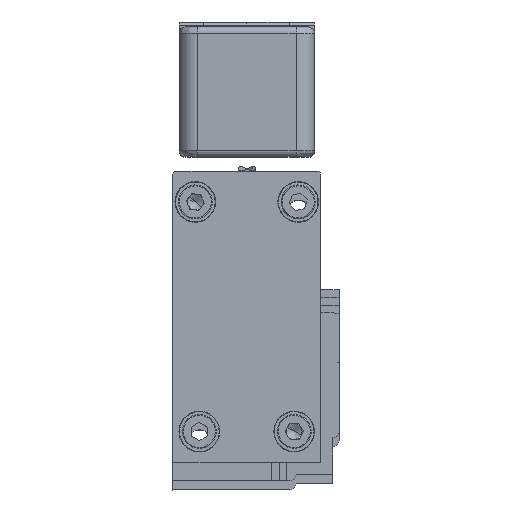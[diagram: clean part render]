
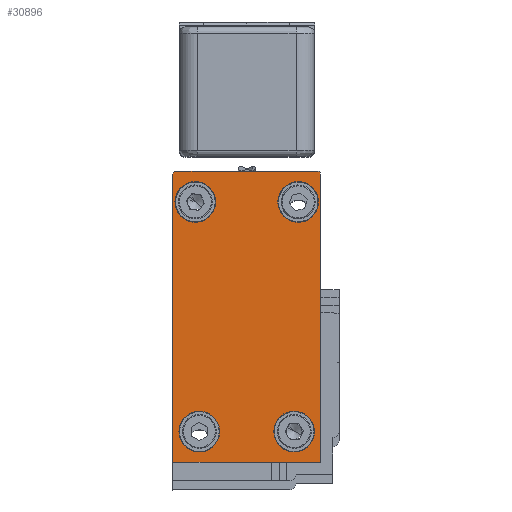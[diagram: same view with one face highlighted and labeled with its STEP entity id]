
A CAD part, top view. The second image highlights one B-rep face of the part: STEP entity #30896.
In plain terms, the highlighted planar face has unit normal (0, 0, 1).
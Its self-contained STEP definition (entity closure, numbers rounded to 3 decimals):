
#298 = DIRECTION ( 'NONE',  ( 0., 0., -1. ) ) ;
#324 = CARTESIAN_POINT ( 'NONE',  ( 5.984, -20.888, 3185. ) ) ;
#330 = VERTEX_POINT ( 'NONE', #29705 ) ;
#409 = EDGE_CURVE ( 'NONE', #3132, #6403, #15559, .T. ) ;
#860 = VERTEX_POINT ( 'NONE', #30351 ) ;
#1357 = VERTEX_POINT ( 'NONE', #10561 ) ;
#1759 = ORIENTED_EDGE ( 'NONE', *, *, #1825, .T. ) ;
#1825 = EDGE_CURVE ( 'NONE', #23391, #5737, #16225, .T. ) ;
#2211 = CARTESIAN_POINT ( 'NONE',  ( -17.514, 26.371, 3185. ) ) ;
#2594 = CARTESIAN_POINT ( 'NONE',  ( 5.984, 7.11, 3185. ) ) ;
#3019 = LINE ( 'NONE', #23287, #22585 ) ;
#3132 = VERTEX_POINT ( 'NONE', #17724 ) ;
#3183 = CARTESIAN_POINT ( 'NONE',  ( -13.714, -15.887, 3185. ) ) ;
#3636 = VECTOR ( 'NONE', #21829, 1000. ) ;
#3754 = LINE ( 'NONE', #324, #9480 ) ;
#4077 = ORIENTED_EDGE ( 'NONE', *, *, #24701, .T. ) ;
#4430 = DIRECTION ( 'NONE',  ( 0., 0., -1. ) ) ;
#4589 = AXIS2_PLACEMENT_3D ( 'NONE', #29338, #14610, #31803 ) ;
#5462 = DIRECTION ( 'NONE',  ( 0., -1., 0. ) ) ;
#5536 = CARTESIAN_POINT ( 'NONE',  ( -1.626, -15.887, 3185. ) ) ;
#5570 = EDGE_LOOP ( 'NONE', ( #24722, #5773 ) ) ;
#5618 = DIRECTION ( 'NONE',  ( -1., 0., 0. ) ) ;
#5737 = VERTEX_POINT ( 'NONE', #5536 ) ;
#5773 = ORIENTED_EDGE ( 'NONE', *, *, #28994, .T. ) ;
#5811 = ORIENTED_EDGE ( 'NONE', *, *, #15309, .F. ) ;
#5883 = CARTESIAN_POINT ( 'NONE',  ( 2.335, 21.401, 3185. ) ) ;
#6143 = DIRECTION ( 'NONE',  ( 1., 0., 0. ) ) ;
#6191 = DIRECTION ( 'NONE',  ( 0., 0., -1. ) ) ;
#6222 = CARTESIAN_POINT ( 'NONE',  ( -17.667, 21.401, 3185. ) ) ;
#6403 = VERTEX_POINT ( 'NONE', #17359 ) ;
#6424 = VECTOR ( 'NONE', #18844, 1000. ) ;
#6546 = DIRECTION ( 'NONE',  ( 0., 0., 1. ) ) ;
#6804 = VERTEX_POINT ( 'NONE', #16471 ) ;
#6960 = VERTEX_POINT ( 'NONE', #19810 ) ;
#7341 = ORIENTED_EDGE ( 'NONE', *, *, #409, .T. ) ;
#7673 = DIRECTION ( 'NONE',  ( 0., 0., 1. ) ) ;
#7792 = ORIENTED_EDGE ( 'NONE', *, *, #16546, .T. ) ;
#7875 = AXIS2_PLACEMENT_3D ( 'NONE', #21244, #6546, #23703 ) ;
#7934 = EDGE_CURVE ( 'NONE', #6960, #860, #10342, .T. ) ;
#8345 = DIRECTION ( 'NONE',  ( -1., 0., 0. ) ) ;
#8420 = AXIS2_PLACEMENT_3D ( 'NONE', #19075, #4430, #21577 ) ;
#8605 = ORIENTED_EDGE ( 'NONE', *, *, #7934, .T. ) ;
#8631 = CIRCLE ( 'NONE', #25433, 0.5 ) ;
#8657 = ORIENTED_EDGE ( 'NONE', *, *, #30466, .T. ) ;
#8765 = CIRCLE ( 'NONE', #24328, 3.302 ) ;
#8909 = PLANE ( 'NONE',  #7875 ) ;
#9139 = ORIENTED_EDGE ( 'NONE', *, *, #25547, .T. ) ;
#9254 = CARTESIAN_POINT ( 'NONE',  ( 1.676, -15.887, 3185. ) ) ;
#9480 = VECTOR ( 'NONE', #17431, 1000. ) ;
#9594 = CARTESIAN_POINT ( 'NONE',  ( -13.714, -15.887, 3185. ) ) ;
#10342 = LINE ( 'NONE', #20137, #23347 ) ;
#10561 = CARTESIAN_POINT ( 'NONE',  ( -10.412, -15.887, 3185. ) ) ;
#10728 = EDGE_CURVE ( 'NONE', #29186, #29997, #19470, .T. ) ;
#11012 = ORIENTED_EDGE ( 'NONE', *, *, #10728, .T. ) ;
#11698 = DIRECTION ( 'NONE',  ( -1., 0., 0. ) ) ;
#12053 = DIRECTION ( 'NONE',  ( -1., 0., 0. ) ) ;
#12172 = FACE_BOUND ( 'NONE', #12187, .T. ) ;
#12187 = EDGE_LOOP ( 'NONE', ( #7341, #16454 ) ) ;
#13590 = EDGE_LOOP ( 'NONE', ( #30246, #11012, #4077, #9139, #5811, #8605, #21467 ) ) ;
#13783 = CARTESIAN_POINT ( 'NONE',  ( 2.335, 21.401, 3185. ) ) ;
#14092 = EDGE_CURVE ( 'NONE', #16717, #21394, #21231, .T. ) ;
#14610 = DIRECTION ( 'NONE',  ( 0., 0., -1. ) ) ;
#14948 = CARTESIAN_POINT ( 'NONE',  ( 1.676, -15.887, 3185. ) ) ;
#15309 = EDGE_CURVE ( 'NONE', #6960, #25500, #19244, .T. ) ;
#15357 = CARTESIAN_POINT ( 'NONE',  ( -11.063, 21.401, 3185. ) ) ;
#15559 = CIRCLE ( 'NONE', #15599, 3.302 ) ;
#15599 = AXIS2_PLACEMENT_3D ( 'NONE', #5883, #23048, #8345 ) ;
#15964 = CARTESIAN_POINT ( 'NONE',  ( 5.984, 7.11, 3185. ) ) ;
#16225 = CIRCLE ( 'NONE', #31496, 3.302 ) ;
#16252 = DIRECTION ( 'NONE',  ( -1., 0., 0. ) ) ;
#16454 = ORIENTED_EDGE ( 'NONE', *, *, #20114, .T. ) ;
#16471 = CARTESIAN_POINT ( 'NONE',  ( 5.485, 26.371, 3185. ) ) ;
#16546 = EDGE_CURVE ( 'NONE', #1357, #31814, #24947, .T. ) ;
#16717 = VERTEX_POINT ( 'NONE', #6222 ) ;
#17359 = CARTESIAN_POINT ( 'NONE',  ( 5.637, 21.401, 3185. ) ) ;
#17402 = DIRECTION ( 'NONE',  ( -1., 0., 0. ) ) ;
#17431 = DIRECTION ( 'NONE',  ( 0., 1., 0. ) ) ;
#17724 = CARTESIAN_POINT ( 'NONE',  ( -0.967, 21.401, 3185. ) ) ;
#17980 = CIRCLE ( 'NONE', #21618, 3.302 ) ;
#18654 = FACE_BOUND ( 'NONE', #5570, .T. ) ;
#18844 = DIRECTION ( 'NONE',  ( 0., 1., 0. ) ) ;
#19075 = CARTESIAN_POINT ( 'NONE',  ( -14.365, 21.401, 3185. ) ) ;
#19244 = CIRCLE ( 'NONE', #26795, 0.5 ) ;
#19470 = LINE ( 'NONE', #15964, #6424 ) ;
#19697 = CARTESIAN_POINT ( 'NONE',  ( -17.017, -15.887, 3185. ) ) ;
#19810 = CARTESIAN_POINT ( 'NONE',  ( -18.014, 25.871, 3185. ) ) ;
#20114 = EDGE_CURVE ( 'NONE', #6403, #3132, #17980, .T. ) ;
#20137 = CARTESIAN_POINT ( 'NONE',  ( -18.014, 25.871, 3185. ) ) ;
#20296 = DIRECTION ( 'NONE',  ( 0., 0., -1. ) ) ;
#20879 = CARTESIAN_POINT ( 'NONE',  ( -17.514, 25.871, 3185. ) ) ;
#20892 = AXIS2_PLACEMENT_3D ( 'NONE', #3183, #20296, #5618 ) ;
#21139 = ORIENTED_EDGE ( 'NONE', *, *, #22753, .T. ) ;
#21231 = CIRCLE ( 'NONE', #4589, 3.302 ) ;
#21244 = CARTESIAN_POINT ( 'NONE',  ( -18.014, -20.888, 3185. ) ) ;
#21394 = VERTEX_POINT ( 'NONE', #15357 ) ;
#21467 = ORIENTED_EDGE ( 'NONE', *, *, #30752, .T. ) ;
#21577 = DIRECTION ( 'NONE',  ( -1., 0., 0. ) ) ;
#21618 = AXIS2_PLACEMENT_3D ( 'NONE', #13783, #30969, #16252 ) ;
#21829 = DIRECTION ( 'NONE',  ( -1., 0., 0. ) ) ;
#22397 = CARTESIAN_POINT ( 'NONE',  ( 5.485, 25.871, 3185. ) ) ;
#22585 = VECTOR ( 'NONE', #6143, 1000. ) ;
#22753 = EDGE_CURVE ( 'NONE', #31814, #1357, #8765, .T. ) ;
#23048 = DIRECTION ( 'NONE',  ( 0., 0., -1. ) ) ;
#23287 = CARTESIAN_POINT ( 'NONE',  ( -18.014, -20.888, 3185. ) ) ;
#23335 = DIRECTION ( 'NONE',  ( 0., 1., 0. ) ) ;
#23347 = VECTOR ( 'NONE', #5462, 1000. ) ;
#23391 = VERTEX_POINT ( 'NONE', #28484 ) ;
#23703 = DIRECTION ( 'NONE',  ( -1., 0., 0. ) ) ;
#24328 = AXIS2_PLACEMENT_3D ( 'NONE', #9594, #26767, #12053 ) ;
#24426 = FACE_OUTER_BOUND ( 'NONE', #13590, .T. ) ;
#24701 = EDGE_CURVE ( 'NONE', #29997, #6804, #8631, .T. ) ;
#24722 = ORIENTED_EDGE ( 'NONE', *, *, #14092, .T. ) ;
#24819 = DIRECTION ( 'NONE',  ( 0., 1., 0. ) ) ;
#24838 = CARTESIAN_POINT ( 'NONE',  ( 5.984, 25.871, 3185. ) ) ;
#24947 = CIRCLE ( 'NONE', #20892, 3.302 ) ;
#25226 = FACE_BOUND ( 'NONE', #30019, .T. ) ;
#25433 = AXIS2_PLACEMENT_3D ( 'NONE', #22397, #7673, #24819 ) ;
#25500 = VERTEX_POINT ( 'NONE', #2211 ) ;
#25547 = EDGE_CURVE ( 'NONE', #6804, #25500, #28541, .T. ) ;
#25644 = CIRCLE ( 'NONE', #26112, 3.302 ) ;
#26112 = AXIS2_PLACEMENT_3D ( 'NONE', #14948, #298, #17402 ) ;
#26408 = DIRECTION ( 'NONE',  ( 0., 0., -1. ) ) ;
#26767 = DIRECTION ( 'NONE',  ( 0., 0., -1. ) ) ;
#26795 = AXIS2_PLACEMENT_3D ( 'NONE', #20879, #6191, #23335 ) ;
#26858 = CARTESIAN_POINT ( 'NONE',  ( 5.485, 26.371, 3185. ) ) ;
#28190 = EDGE_CURVE ( 'NONE', #330, #29186, #3754, .T. ) ;
#28484 = CARTESIAN_POINT ( 'NONE',  ( 4.978, -15.887, 3185. ) ) ;
#28541 = LINE ( 'NONE', #26858, #3636 ) ;
#28871 = EDGE_LOOP ( 'NONE', ( #8657, #1759 ) ) ;
#28994 = EDGE_CURVE ( 'NONE', #21394, #16717, #29059, .T. ) ;
#29059 = CIRCLE ( 'NONE', #8420, 3.302 ) ;
#29186 = VERTEX_POINT ( 'NONE', #2594 ) ;
#29338 = CARTESIAN_POINT ( 'NONE',  ( -14.365, 21.401, 3185. ) ) ;
#29705 = CARTESIAN_POINT ( 'NONE',  ( 5.984, -20.888, 3185. ) ) ;
#29997 = VERTEX_POINT ( 'NONE', #24838 ) ;
#30019 = EDGE_LOOP ( 'NONE', ( #21139, #7792 ) ) ;
#30246 = ORIENTED_EDGE ( 'NONE', *, *, #28190, .T. ) ;
#30351 = CARTESIAN_POINT ( 'NONE',  ( -18.014, -20.888, 3185. ) ) ;
#30466 = EDGE_CURVE ( 'NONE', #5737, #23391, #25644, .T. ) ;
#30752 = EDGE_CURVE ( 'NONE', #860, #330, #3019, .T. ) ;
#30896 = ADVANCED_FACE ( 'NONE', ( #18654, #12172, #30966, #25226, #24426 ), #8909, .T. ) ;
#30966 = FACE_BOUND ( 'NONE', #28871, .T. ) ;
#30969 = DIRECTION ( 'NONE',  ( 0., 0., -1. ) ) ;
#31496 = AXIS2_PLACEMENT_3D ( 'NONE', #9254, #26408, #11698 ) ;
#31803 = DIRECTION ( 'NONE',  ( -1., 0., 0. ) ) ;
#31814 = VERTEX_POINT ( 'NONE', #19697 ) ;
